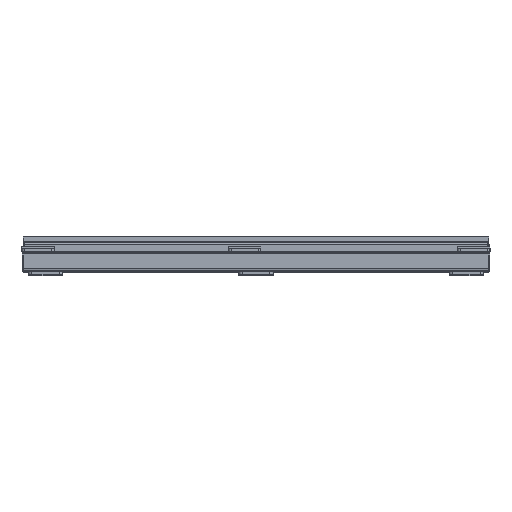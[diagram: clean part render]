
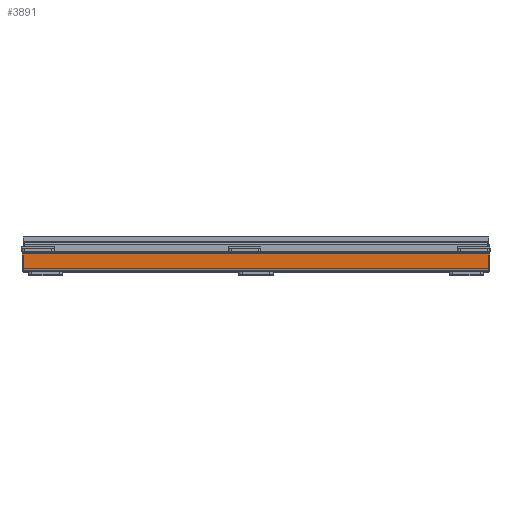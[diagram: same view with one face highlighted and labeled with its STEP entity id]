
A CAD part, top view. The second image highlights one B-rep face of the part: STEP entity #3891.
In plain terms, the highlighted planar face has unit normal (0, 0, 1) as drawn and (-1, 0, 0) by its records, which use the part's own axes.
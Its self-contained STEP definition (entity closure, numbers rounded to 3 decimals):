
#3891=ADVANCED_FACE('',(#8173),#8175,.T.);
#8173=FACE_BOUND('',#8174,.T.);
#8174=EDGE_LOOP('',(#15837,#15838,#15839,#15840));
#8175=PLANE('',#8176);
#8176=AXIS2_PLACEMENT_3D('',#8177,#8178,#8179);
#8177=CARTESIAN_POINT('',(-50.,40.,0.));
#8178=DIRECTION('',(-1.,0.,0.));
#8179=DIRECTION('',(0.,-1.,0.));
#15837=ORIENTED_EDGE('',*,*,#20140,.T.);
#15838=ORIENTED_EDGE('',*,*,#20170,.F.);
#15839=ORIENTED_EDGE('',*,*,#20151,.T.);
#15840=ORIENTED_EDGE('',*,*,#20149,.T.);
#20140=EDGE_CURVE('',#22568,#22566,#22569,.F.);
#20149=EDGE_CURVE('',#22584,#22568,#22585,.T.);
#20151=EDGE_CURVE('',#22587,#22584,#22588,.F.);
#20170=EDGE_CURVE('',#22587,#22566,#22617,.T.);
#22566=VERTEX_POINT('',#27001);
#22568=VERTEX_POINT('',#27006);
#22569=LINE('',#27007,#27008);
#22584=VERTEX_POINT('',#27045);
#22585=LINE('',#27046,#27047);
#22587=VERTEX_POINT('',#27053);
#22588=LINE('',#27054,#27055);
#22617=LINE('',#27128,#27129);
#27001=CARTESIAN_POINT('',(-50.,40.,1890.));
#27006=CARTESIAN_POINT('',(-50.,-20.,1890.));
#27007=CARTESIAN_POINT('',(-50.,40.,1890.));
#27008=VECTOR('',#27009,1.);
#27009=DIRECTION('',(0.,-1.,0.));
#27045=CARTESIAN_POINT('',(-50.,-20.,0.));
#27046=CARTESIAN_POINT('',(-50.,-20.,0.));
#27047=VECTOR('',#27048,1.);
#27048=DIRECTION('',(0.,0.,1.));
#27053=CARTESIAN_POINT('',(-50.,40.,0.));
#27054=CARTESIAN_POINT('',(-50.,-20.,0.));
#27055=VECTOR('',#27056,1.);
#27056=DIRECTION('',(0.,1.,0.));
#27128=CARTESIAN_POINT('',(-50.,40.,0.));
#27129=VECTOR('',#27130,1.);
#27130=DIRECTION('',(0.,0.,1.));
